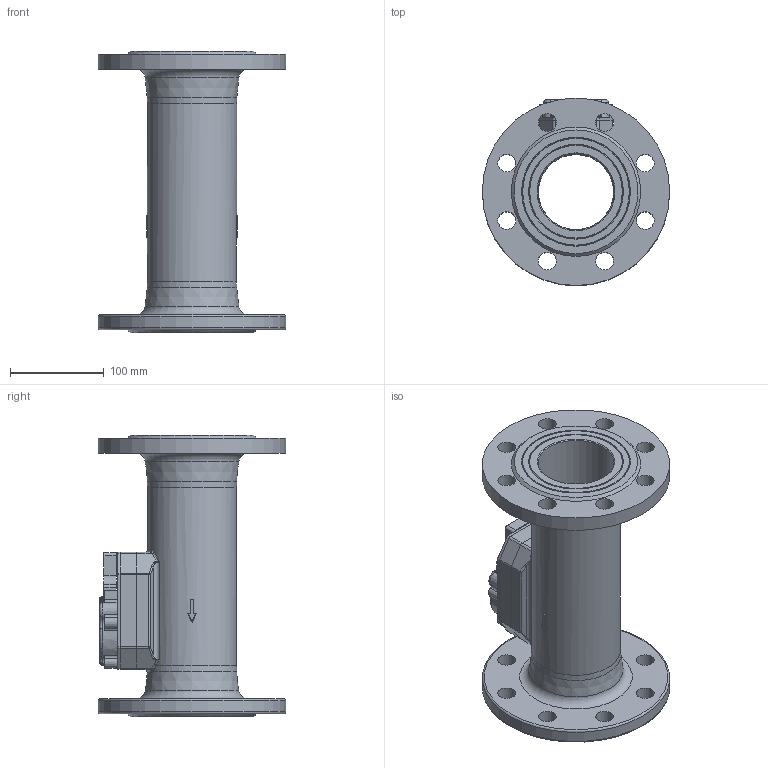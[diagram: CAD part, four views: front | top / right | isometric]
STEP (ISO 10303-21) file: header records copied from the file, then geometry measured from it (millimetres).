
FILE_DESCRIPTION( ( 'Unknown' ), '1' );
FILE_NAME( 'H:/440 pour vente_mai_2013/step_2/DN80_PN16-25_inox et fonte_300mm_rempli.stp', 'Unknown', ( 'Unknown' ), ( 'Unknown' ), 'PSStep 15.0.49', 'Unknown', ' ' );
FILE_SCHEMA( ( 'AUTOMOTIVE_DESIGN { 1 0 10303 214 1 1 1 1 }' ) );
Length unit declared in the file: millimetre
Products named in the file (6): 440_tête_rempli; 0440P011_rempli; 0440P012_rempli; 0440P060_rempli; Assem1; 0440P403_rempli
Assembly tree (5 placements, depth 3):
  Assem1
    0440P403_rempli
    440_tête_rempli
      0440P011_rempli
      0440P012_rempli
      0440P060_rempli
Bounding box: 200 x 200 x 300 mm (x, y, z)
Volume: 1803381.6 mm3; surface area: 352129.6 mm2
Topology: 4 solids, 10 shells, 346 faces, 855 edges, 520 vertices
Faces by surface type: plane 106, cylinder 94, cone 66, torus 41, bspline 39
Full cylindrical faces by diameter (mm): 2.2 x1, 2.459 x2, 2.5 x1, 3.242 x4, 4.1 x1, 5 x1, 5.03 x1, 6.2 x6, 6.917 x2, 10.2 x2, 19 x16, 80 x1, 81 x2, 95 x1, 200 x2
Entity records: 17844 total; most frequent: CARTESIAN_POINT 7351, DIRECTION 1647, ORIENTED_EDGE 1438, EDGE_CURVE 719, AXIS2_PLACEMENT_3D 688, VERTEX_POINT 488, EDGE_LOOP 484, FACE_OUTER_BOUND 398
